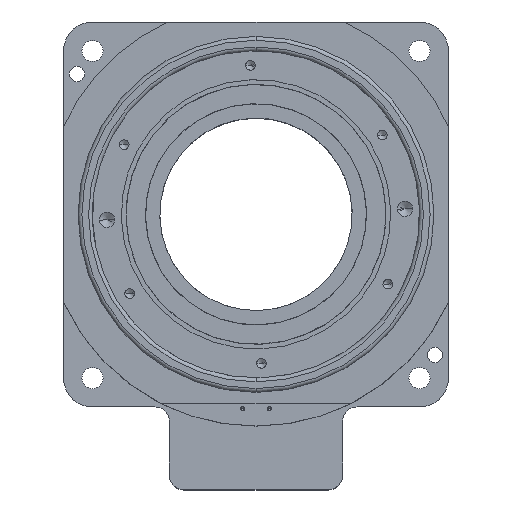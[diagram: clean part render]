
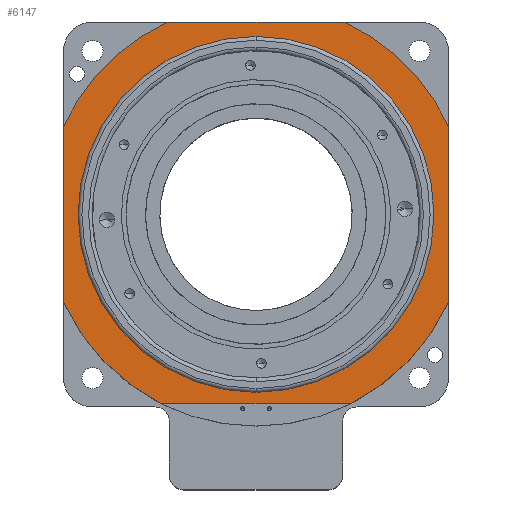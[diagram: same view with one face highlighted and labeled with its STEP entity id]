
A CAD part, top view. The second image highlights one B-rep face of the part: STEP entity #6147.
In plain terms, the highlighted planar face has unit normal (0, 0, 1).
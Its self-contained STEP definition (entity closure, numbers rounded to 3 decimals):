
#90 = CARTESIAN_POINT ( 'NONE',  ( 110.785, 123.706, 264. ) ) ;
#274 = ORIENTED_EDGE ( 'NONE', *, *, #12599, .T. ) ;
#343 = DIRECTION ( 'NONE',  ( 0., 0., 1. ) ) ;
#438 = ORIENTED_EDGE ( 'NONE', *, *, #4281, .F. ) ;
#472 = CARTESIAN_POINT ( 'NONE',  ( -38.182, -74.794, 264. ) ) ;
#819 = CARTESIAN_POINT ( 'NONE',  ( -35.041, 123.706, 264. ) ) ;
#936 = LINE ( 'NONE', #2696, #10290 ) ;
#1415 = VERTEX_POINT ( 'NONE', #14795 ) ;
#1501 = EDGE_CURVE ( 'NONE', #9635, #12207, #10488, .T. ) ;
#1523 = DIRECTION ( 'NONE',  ( 0., -1., 0. ) ) ;
#1715 = AXIS2_PLACEMENT_3D ( 'NONE', #1963, #3185, #11714 ) ;
#1726 = EDGE_LOOP ( 'NONE', ( #13297, #10574 ) ) ;
#1800 = VERTEX_POINT ( 'NONE', #11255 ) ;
#1915 = VERTEX_POINT ( 'NONE', #15108 ) ;
#1963 = CARTESIAN_POINT ( 'NONE',  ( 10.785, 23.706, 264. ) ) ;
#2179 = AXIS2_PLACEMENT_3D ( 'NONE', #7144, #15685, #8398 ) ;
#2195 = CARTESIAN_POINT ( 'NONE',  ( 59.752, -74.794, 264. ) ) ;
#2668 = EDGE_CURVE ( 'NONE', #1800, #1915, #9512, .T. ) ;
#2696 = CARTESIAN_POINT ( 'NONE',  ( -89.215, -76.294, 264. ) ) ;
#2787 = CIRCLE ( 'NONE', #14765, 110. ) ;
#2814 = VERTEX_POINT ( 'NONE', #472 ) ;
#3185 = DIRECTION ( 'NONE',  ( 0., 0., 1. ) ) ;
#3974 = DIRECTION ( 'NONE',  ( 0., 0., 1. ) ) ;
#4007 = ORIENTED_EDGE ( 'NONE', *, *, #1501, .T. ) ;
#4201 = VERTEX_POINT ( 'NONE', #10427 ) ;
#4281 = EDGE_CURVE ( 'NONE', #8744, #2814, #8867, .T. ) ;
#4340 = CARTESIAN_POINT ( 'NONE',  ( -89.215, 69.532, 264. ) ) ;
#4584 = EDGE_CURVE ( 'NONE', #4201, #2814, #9049, .T. ) ;
#5087 = AXIS2_PLACEMENT_3D ( 'NONE', #11285, #3974, #12502 ) ;
#5215 = EDGE_CURVE ( 'NONE', #1915, #9635, #11122, .T. ) ;
#5386 = CARTESIAN_POINT ( 'NONE',  ( 56.611, 123.706, 264. ) ) ;
#5795 = DIRECTION ( 'NONE',  ( 0., 0., 1. ) ) ;
#5872 = AXIS2_PLACEMENT_3D ( 'NONE', #13117, #5795, #14340 ) ;
#5979 = VECTOR ( 'NONE', #8146, 1000. ) ;
#6113 = AXIS2_PLACEMENT_3D ( 'NONE', #7659, #343, #8880 ) ;
#6147 = ADVANCED_FACE ( 'NONE', ( #10571, #7737 ), #9266, .T. ) ;
#6296 = VECTOR ( 'NONE', #12367, 1000. ) ;
#6357 = DIRECTION ( 'NONE',  ( 0., 0., 1. ) ) ;
#6375 = AXIS2_PLACEMENT_3D ( 'NONE', #6908, #15456, #8158 ) ;
#6908 = CARTESIAN_POINT ( 'NONE',  ( 10.785, 23.706, 264. ) ) ;
#6988 = ORIENTED_EDGE ( 'NONE', *, *, #5215, .T. ) ;
#7144 = CARTESIAN_POINT ( 'NONE',  ( 10.785, 23.706, 264. ) ) ;
#7272 = ORIENTED_EDGE ( 'NONE', *, *, #15337, .T. ) ;
#7650 = VECTOR ( 'NONE', #8635, 1000. ) ;
#7659 = CARTESIAN_POINT ( 'NONE',  ( 10.785, 23.706, 264. ) ) ;
#7737 = FACE_BOUND ( 'NONE', #1726, .T. ) ;
#8069 = ORIENTED_EDGE ( 'NONE', *, *, #11842, .T. ) ;
#8146 = DIRECTION ( 'NONE',  ( -1., 0., 0. ) ) ;
#8158 = DIRECTION ( 'NONE',  ( 1., 0., 0. ) ) ;
#8398 = DIRECTION ( 'NONE',  ( 1., 0., 0. ) ) ;
#8635 = DIRECTION ( 'NONE',  ( -1., 0., 0. ) ) ;
#8689 = CARTESIAN_POINT ( 'NONE',  ( 110.785, -76.294, 264. ) ) ;
#8744 = VERTEX_POINT ( 'NONE', #2195 ) ;
#8867 = LINE ( 'NONE', #14218, #5979 ) ;
#8880 = DIRECTION ( 'NONE',  ( 1., 0., 0. ) ) ;
#9049 = CIRCLE ( 'NONE', #5087, 110. ) ;
#9266 = PLANE ( 'NONE',  #1715 ) ;
#9512 = LINE ( 'NONE', #8689, #6296 ) ;
#9635 = VERTEX_POINT ( 'NONE', #5386 ) ;
#9867 = VERTEX_POINT ( 'NONE', #15556 ) ;
#10290 = VECTOR ( 'NONE', #1523, 1000. ) ;
#10427 = CARTESIAN_POINT ( 'NONE',  ( -89.215, -22.12, 264. ) ) ;
#10488 = LINE ( 'NONE', #90, #7650 ) ;
#10571 = FACE_OUTER_BOUND ( 'NONE', #11898, .T. ) ;
#10574 = ORIENTED_EDGE ( 'NONE', *, *, #11026, .F. ) ;
#11026 = EDGE_CURVE ( 'NONE', #1415, #9867, #14592, .T. ) ;
#11122 = CIRCLE ( 'NONE', #6113, 110. ) ;
#11255 = CARTESIAN_POINT ( 'NONE',  ( 110.785, -22.12, 264. ) ) ;
#11285 = CARTESIAN_POINT ( 'NONE',  ( 10.785, 23.706, 264. ) ) ;
#11714 = DIRECTION ( 'NONE',  ( 1., 0., 0. ) ) ;
#11842 = EDGE_CURVE ( 'NONE', #8744, #1800, #15153, .T. ) ;
#11898 = EDGE_LOOP ( 'NONE', ( #438, #8069, #12969, #6988, #4007, #7272, #274, #12938 ) ) ;
#12149 = VERTEX_POINT ( 'NONE', #4340 ) ;
#12207 = VERTEX_POINT ( 'NONE', #819 ) ;
#12367 = DIRECTION ( 'NONE',  ( 0., 1., 0. ) ) ;
#12502 = DIRECTION ( 'NONE',  ( 1., 0., 0. ) ) ;
#12599 = EDGE_CURVE ( 'NONE', #12149, #4201, #936, .T. ) ;
#12938 = ORIENTED_EDGE ( 'NONE', *, *, #4584, .T. ) ;
#12943 = CIRCLE ( 'NONE', #5872, 92.5 ) ;
#12969 = ORIENTED_EDGE ( 'NONE', *, *, #2668, .T. ) ;
#12978 = EDGE_CURVE ( 'NONE', #9867, #1415, #12943, .T. ) ;
#13117 = CARTESIAN_POINT ( 'NONE',  ( 10.785, 23.706, 264. ) ) ;
#13297 = ORIENTED_EDGE ( 'NONE', *, *, #12978, .F. ) ;
#13675 = CARTESIAN_POINT ( 'NONE',  ( 10.785, 23.706, 264. ) ) ;
#14218 = CARTESIAN_POINT ( 'NONE',  ( -64.215, -74.794, 264. ) ) ;
#14340 = DIRECTION ( 'NONE',  ( 1., 0., 0. ) ) ;
#14592 = CIRCLE ( 'NONE', #6375, 92.5 ) ;
#14765 = AXIS2_PLACEMENT_3D ( 'NONE', #13675, #6357, #14913 ) ;
#14795 = CARTESIAN_POINT ( 'NONE',  ( -81.715, 23.706, 264. ) ) ;
#14913 = DIRECTION ( 'NONE',  ( 1., 0., 0. ) ) ;
#15108 = CARTESIAN_POINT ( 'NONE',  ( 110.785, 69.532, 264. ) ) ;
#15153 = CIRCLE ( 'NONE', #2179, 110. ) ;
#15337 = EDGE_CURVE ( 'NONE', #12207, #12149, #2787, .T. ) ;
#15456 = DIRECTION ( 'NONE',  ( 0., 0., 1. ) ) ;
#15556 = CARTESIAN_POINT ( 'NONE',  ( 103.285, 23.706, 264. ) ) ;
#15685 = DIRECTION ( 'NONE',  ( 0., 0., 1. ) ) ;
